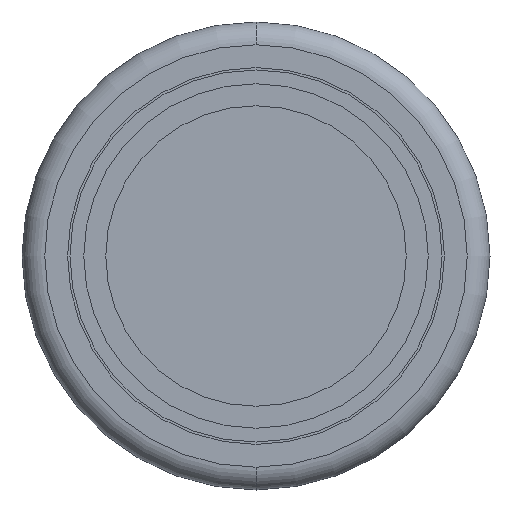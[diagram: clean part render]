
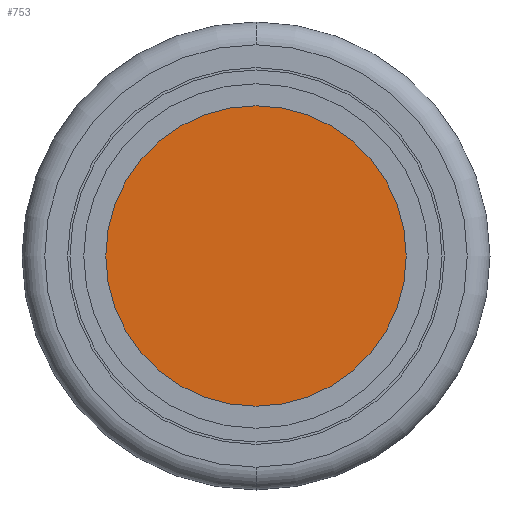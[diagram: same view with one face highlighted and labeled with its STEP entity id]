
A CAD part, front view. The second image highlights one B-rep face of the part: STEP entity #753.
In plain terms, the highlighted planar face has unit normal (0, -1, 0).
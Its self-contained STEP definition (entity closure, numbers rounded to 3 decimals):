
#126 = AXIS2_PLACEMENT_3D ( 'NONE', #318, #262, #1136 ) ;
#205 = EDGE_CURVE ( 'NONE', #998, #622, #497, .T. ) ;
#262 = DIRECTION ( 'NONE',  ( 0., 1., 0. ) ) ;
#318 = CARTESIAN_POINT ( 'NONE',  ( 0., -56.9, 0. ) ) ;
#497 = CIRCLE ( 'NONE', #764, 13. ) ;
#522 = PLANE ( 'NONE',  #126 ) ;
#523 = CARTESIAN_POINT ( 'NONE',  ( 0., -56.9, 0. ) ) ;
#596 = CARTESIAN_POINT ( 'NONE',  ( 0., -56.9, -13. ) ) ;
#622 = VERTEX_POINT ( 'NONE', #904 ) ;
#638 = CIRCLE ( 'NONE', #706, 13. ) ;
#643 = DIRECTION ( 'NONE',  ( 0., 0., 1. ) ) ;
#648 = DIRECTION ( 'NONE',  ( 0., 0., 1. ) ) ;
#679 = CARTESIAN_POINT ( 'NONE',  ( 0., -56.9, 0. ) ) ;
#703 = DIRECTION ( 'NONE',  ( 0., 1., 0. ) ) ;
#706 = AXIS2_PLACEMENT_3D ( 'NONE', #679, #703, #643 ) ;
#753 = ADVANCED_FACE ( 'NONE', ( #1059 ), #522, .F. ) ;
#764 = AXIS2_PLACEMENT_3D ( 'NONE', #523, #1265, #648 ) ;
#897 = EDGE_LOOP ( 'NONE', ( #1119, #1160 ) ) ;
#904 = CARTESIAN_POINT ( 'NONE',  ( 0., -56.9, 13. ) ) ;
#998 = VERTEX_POINT ( 'NONE', #596 ) ;
#1059 = FACE_OUTER_BOUND ( 'NONE', #897, .T. ) ;
#1119 = ORIENTED_EDGE ( 'NONE', *, *, #1137, .F. ) ;
#1136 = DIRECTION ( 'NONE',  ( 0., 0., 1. ) ) ;
#1137 = EDGE_CURVE ( 'NONE', #622, #998, #638, .T. ) ;
#1160 = ORIENTED_EDGE ( 'NONE', *, *, #205, .F. ) ;
#1265 = DIRECTION ( 'NONE',  ( 0., 1., 0. ) ) ;
